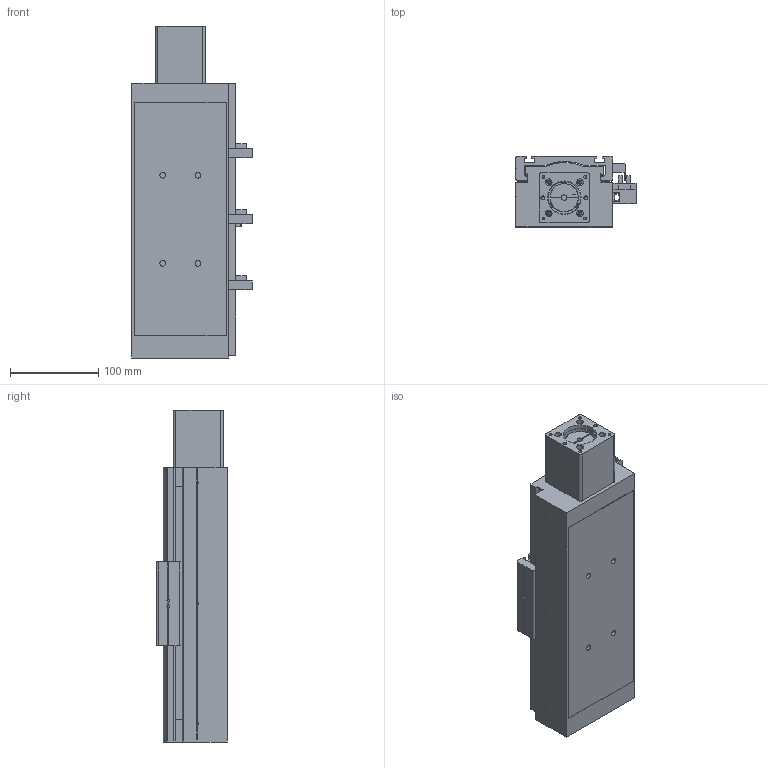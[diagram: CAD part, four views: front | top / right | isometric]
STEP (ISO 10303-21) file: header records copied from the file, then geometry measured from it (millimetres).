
FILE_DESCRIPTION((''),'2;1');
FILE_NAME('E:\libraries\UIA actuator library 2009\standard actuator\UIA110R12(15)DC\UIA110R12(15)DC-ball screw dia.20\UIA110R12(15)DC-_ _ _-R20_ _-M23 step file 20Apr16\UIA110R12(15)DC-150-R20_ _-M23-P13-C10-S.stp','2016-04-20T17:45:16',('h029'),(''),'Autodesk Inventor 11','Autodesk Inventor 11','');
FILE_SCHEMA(('AUTOMOTIVE_DESIGN { 1 0 10303 214 1 1 1 1 }'));
Length unit declared in the file: millimetre
Products named in the file (10): UIA110R12(15)DC-150, ball screw dia.20; body, UIA110R12(15)DC-150,ball screw dia.20; Carriage, UIA110R12(15)DC; Sen Switch, UIA110R12(15)DC; sensor rail, UIA110R12(15)DC-150; M23 motor mount; SOH-32C; SOH-32C-3; SOH-32C-1; SOH-32C-2
Assembly tree (9 placements, depth 3):
  UIA110R12(15)DC-150, ball screw dia.20
    body, UIA110R12(15)DC-150,ball screw dia.20
    Carriage, UIA110R12(15)DC
    Sen Switch, UIA110R12(15)DC
    sensor rail, UIA110R12(15)DC-150
    M23 motor mount
    SOH-32C
      SOH-32C-3
      SOH-32C-1
      SOH-32C-2
Bounding box: 136.5 x 81 x 377 mm (x, y, z)
Volume: 2600553.8 mm3; surface area: 275397.5 mm2
Topology: 8 solids, 8 shells, 571 faces, 1581 edges, 1032 vertices
Faces by surface type: plane 365, cylinder 107, bspline 81, cone 18
Full cylindrical faces by diameter (mm): 2.459 x3, 3.242 x4, 4 x6, 4.5 x4, 5.5 x3, 6.35 x1, 6.5 x4, 7.5 x4, 9.5 x6, 10 x2, 10.5 x4, 12 x1, 25 x1, 32 x3, 37 x1, 38.1 x1, 42 x1, 42.01 x1, 43.5 x1
Entity records: 18804 total; most frequent: CARTESIAN_POINT 4873, DIRECTION 2773, ORIENTED_EDGE 2744, EDGE_CURVE 1372, VERTEX_POINT 959, VECTOR 951, LINE 951, AXIS2_PLACEMENT_3D 911
